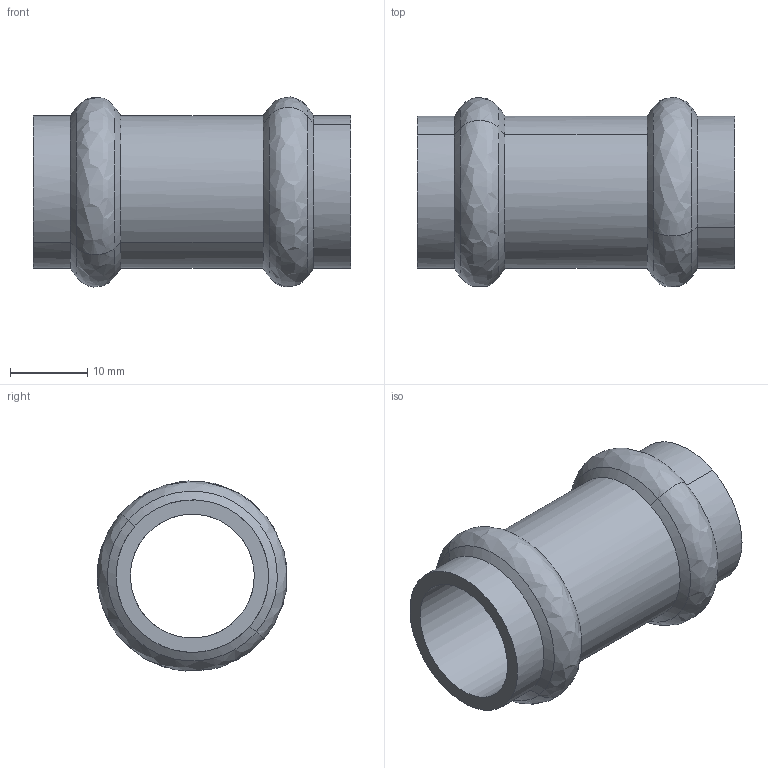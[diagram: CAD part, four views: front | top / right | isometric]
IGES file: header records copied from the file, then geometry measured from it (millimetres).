
Start section: 3D InterOp IGES (Version 25 0 1), Spatial Corp. Copyright (c) 1999-2007.
Global section: file name: pim0004404.igs; native system: Spatial Corp.; preprocessor: 3D InterOp ACIS/IGES; author: Cad-Pim; organization: TransMagic, Inc.; date: 20150430.064646; units: millimetre
Bounding box: 41 x 24.49 x 24.55 mm (x, y, z)
Volume: 5761.5 mm3; surface area: 5231.9 mm2
Topology: 1 solids, 1 shells, 22 faces, 58 edges, 38 vertices
Faces by surface type: cylinder 8, cone 8, bspline 6
